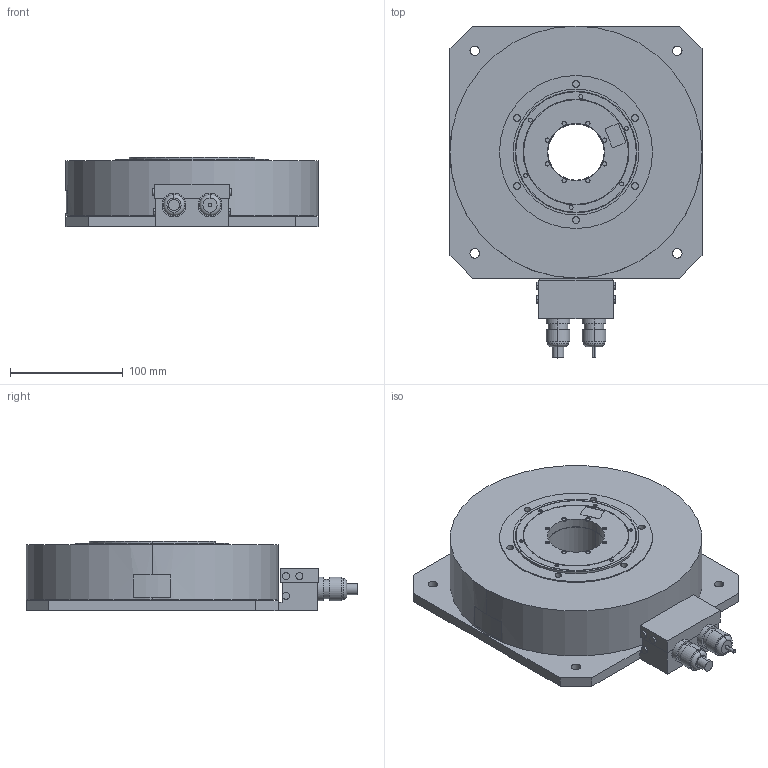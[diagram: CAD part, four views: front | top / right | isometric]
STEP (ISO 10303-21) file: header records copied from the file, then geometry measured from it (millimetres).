
FILE_DESCRIPTION (( 'STEP AP203' ), '1' );
FILE_NAME ('sgm7d_30l_c42.STEP', '2016-02-23T05:31:11', ( '' ), ( '' ), 'SwSTEP 2.0', 'SolidWorks 2010', '' );
FILE_SCHEMA (( 'CONFIG_CONTROL_DESIGN' ));
Length unit declared in the file: millimetre
Products named in the file (1): sgm7d_30l_c42
Bounding box: 224 x 295 x 62.1 mm (x, y, z)
Volume: 2398310.4 mm3; surface area: 174428.3 mm2
Topology: 1 solids, 1 shells, 297 faces, 672 edges, 444 vertices
Faces by surface type: cylinder 168, plane 125, torus 4
Entity records: 8559 total; most frequent: DIRECTION 1620, CARTESIAN_POINT 1414, ORIENTED_EDGE 1344, EDGE_CURVE 672, AXIS2_PLACEMENT_3D 650, VERTEX_POINT 444, EDGE_LOOP 374, CIRCLE 352
